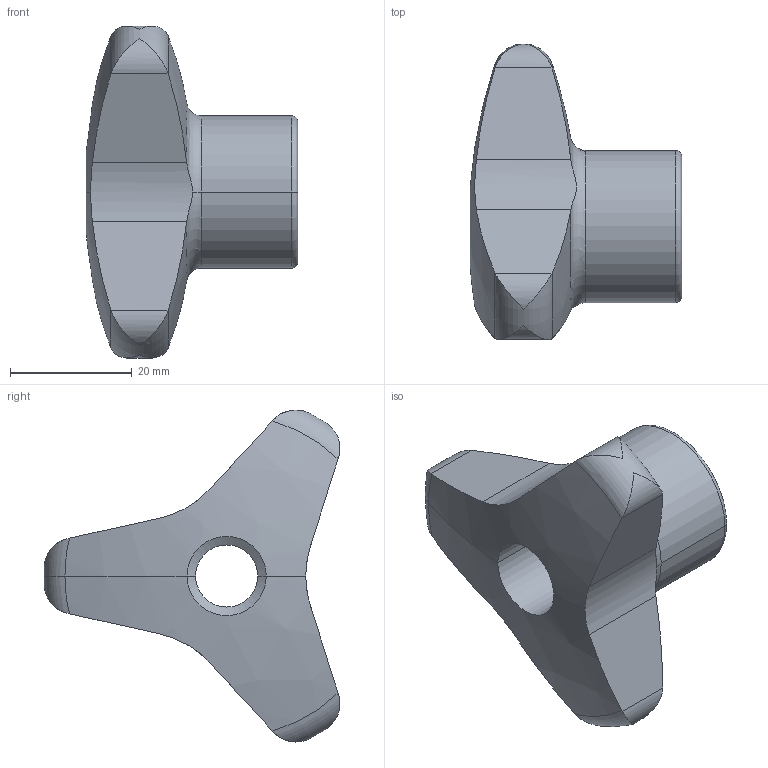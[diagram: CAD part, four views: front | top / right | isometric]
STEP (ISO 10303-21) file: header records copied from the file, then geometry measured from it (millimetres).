
FILE_DESCRIPTION (( 'STEP AP214' ), '1' );
FILE_NAME ('5345-60-M12-D.step', '2019-06-13T08:49:31', ( 'user' ), ( '' ), 'SwSTEP 2.0', 'SolidWorks 2019', '' );
FILE_SCHEMA (( 'AUTOMOTIVE_DESIGN' ));
Length unit declared in the file: millimetre
Products named in the file (1): 5345-60-M12-D
Bounding box: 34.75 x 48.58 x 54.53 mm (x, y, z)
Volume: 24000 mm3; surface area: 7049.2 mm2
Topology: 1 solids, 1 shells, 39 faces, 107 edges, 69 vertices
Faces by surface type: cylinder 16, torus 8, plane 7, sphere 6, cone 2
Entity records: 1577 total; most frequent: CARTESIAN_POINT 562, ORIENTED_EDGE 214, DIRECTION 193, EDGE_CURVE 107, AXIS2_PLACEMENT_3D 86, VERTEX_POINT 69, CIRCLE 46, B_SPLINE_CURVE_WITH_KNOTS 40
